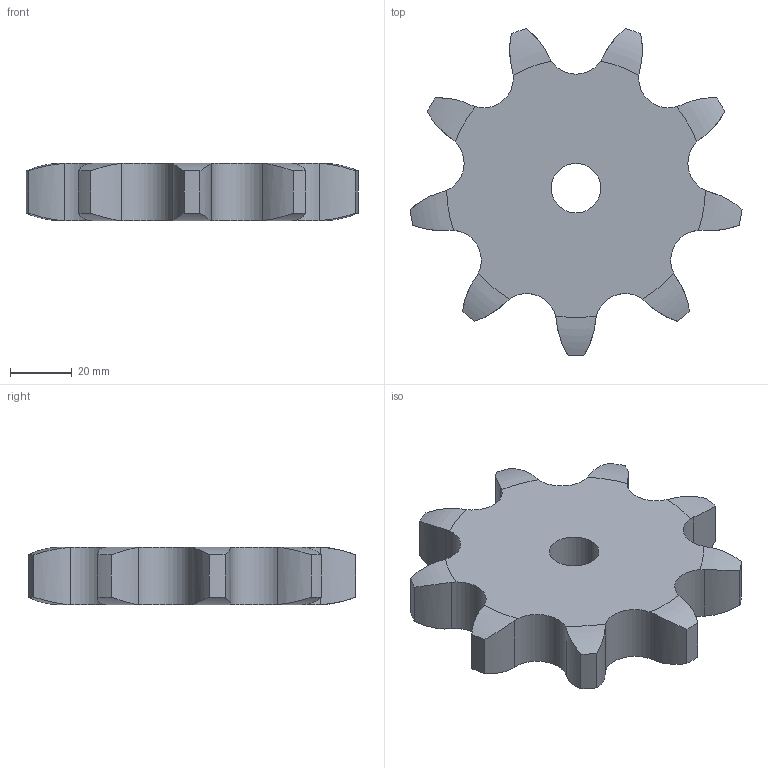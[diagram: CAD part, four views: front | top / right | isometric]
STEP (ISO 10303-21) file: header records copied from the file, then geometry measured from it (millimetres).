
FILE_DESCRIPTION((''),'2;1');
FILE_NAME('500-601-0009_PRT','2021-02-12T',('Brieden'),('Brieden'),'PRO/ENGINEER BY PARAMETRIC TECHNOLOGY CORPORATION, 2010160','PRO/ENGINEER BY PARAMETRIC TECHNOLOGY CORPORATION, 2010160','');
FILE_SCHEMA(('AUTOMOTIVE_DESIGN { 1 0 10303 214 1 1 1 1 }'));
Length unit declared in the file: millimetre
Products named in the file (1): 500-601-0009_PRT
Bounding box: 107.13 x 105.55 x 18.5 mm (x, y, z)
Volume: 107832.9 mm3; surface area: 20599 mm2
Topology: 1 solids, 1 shells, 58 faces, 168 edges, 112 vertices
Faces by surface type: cylinder 38, torus 18, plane 2
Entity records: 2832 total; most frequent: CARTESIAN_POINT 809, ORIENTED_EDGE 336, DIRECTION 270, PRESENTATION_STYLE_ASSIGNMENT 169, STYLED_ITEM 169, CURVE_STYLE 168, EDGE_CURVE 168, AXIS2_PLACEMENT_3D 116
